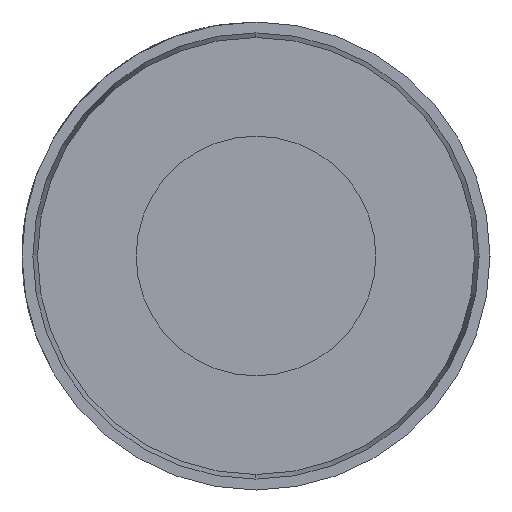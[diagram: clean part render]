
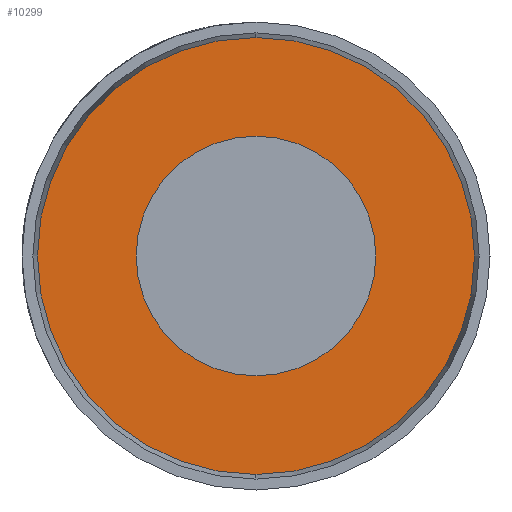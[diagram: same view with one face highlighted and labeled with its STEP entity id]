
A CAD part, left-side view. The second image highlights one B-rep face of the part: STEP entity #10299.
In plain terms, the highlighted planar face has unit normal (-1, 0, 0).
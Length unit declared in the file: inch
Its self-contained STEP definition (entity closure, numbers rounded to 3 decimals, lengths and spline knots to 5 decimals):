
#429 = CIRCLE ( 'NONE', #14964, 0.0875 ) ;
#1785 = EDGE_CURVE ( 'NONE', #5486, #12223, #429, .T. ) ;
#2857 = ORIENTED_EDGE ( 'NONE', *, *, #1785, .T. ) ;
#3196 = CARTESIAN_POINT ( 'NONE',  ( 0., 0., 0.048 ) ) ;
#3852 = DIRECTION ( 'NONE',  ( 0., 0., 1. ) ) ;
#4735 = DIRECTION ( 'NONE',  ( 0., 0., 1. ) ) ;
#5139 = AXIS2_PLACEMENT_3D ( 'NONE', #12768, #19242, #4735 ) ;
#5326 = DIRECTION ( 'NONE',  ( -1., 0., 0. ) ) ;
#5486 = VERTEX_POINT ( 'NONE', #9788 ) ;
#5567 = ORIENTED_EDGE ( 'NONE', *, *, #12492, .T. ) ;
#7011 = FACE_OUTER_BOUND ( 'NONE', #12036, .T. ) ;
#7997 = EDGE_CURVE ( 'NONE', #12817, #10710, #15243, .T. ) ;
#8692 = CARTESIAN_POINT ( 'NONE',  ( 0., 0., 0. ) ) ;
#9246 = CARTESIAN_POINT ( 'NONE',  ( 0., 0., -0.0875 ) ) ;
#9441 = ORIENTED_EDGE ( 'NONE', *, *, #20041, .F. ) ;
#9788 = CARTESIAN_POINT ( 'NONE',  ( 0., 0., 0.0875 ) ) ;
#10190 = PLANE ( 'NONE',  #14874 ) ;
#10299 = ADVANCED_FACE ( 'NONE', ( #13073, #7011 ), #10190, .F. ) ;
#10710 = VERTEX_POINT ( 'NONE', #3196 ) ;
#11250 = CIRCLE ( 'NONE', #16968, 0.0875 ) ;
#11694 = DIRECTION ( 'NONE',  ( 0., 0., -1. ) ) ;
#12036 = EDGE_LOOP ( 'NONE', ( #2857, #5567 ) ) ;
#12223 = VERTEX_POINT ( 'NONE', #9246 ) ;
#12492 = EDGE_CURVE ( 'NONE', #12223, #5486, #11250, .T. ) ;
#12609 = DIRECTION ( 'NONE',  ( -1., 0., 0. ) ) ;
#12768 = CARTESIAN_POINT ( 'NONE',  ( 0., 0., 0. ) ) ;
#12817 = VERTEX_POINT ( 'NONE', #19525 ) ;
#13073 = FACE_BOUND ( 'NONE', #19705, .T. ) ;
#13450 = CARTESIAN_POINT ( 'NONE',  ( 0., 0., 0. ) ) ;
#13464 = DIRECTION ( 'NONE',  ( 1., 0., 0. ) ) ;
#14853 = CARTESIAN_POINT ( 'NONE',  ( 0., 0., 0. ) ) ;
#14874 = AXIS2_PLACEMENT_3D ( 'NONE', #14853, #13464, #11694 ) ;
#14962 = CIRCLE ( 'NONE', #20049, 0.048 ) ;
#14964 = AXIS2_PLACEMENT_3D ( 'NONE', #20656, #12609, #19090 ) ;
#15117 = ORIENTED_EDGE ( 'NONE', *, *, #7997, .F. ) ;
#15141 = DIRECTION ( 'NONE',  ( 0., 0., 1. ) ) ;
#15243 = CIRCLE ( 'NONE', #5139, 0.048 ) ;
#16830 = DIRECTION ( 'NONE',  ( -1., 0., 0. ) ) ;
#16968 = AXIS2_PLACEMENT_3D ( 'NONE', #13450, #5326, #3852 ) ;
#19090 = DIRECTION ( 'NONE',  ( 0., 0., 1. ) ) ;
#19242 = DIRECTION ( 'NONE',  ( -1., 0., 0. ) ) ;
#19525 = CARTESIAN_POINT ( 'NONE',  ( 0., 0., -0.048 ) ) ;
#19705 = EDGE_LOOP ( 'NONE', ( #9441, #15117 ) ) ;
#20041 = EDGE_CURVE ( 'NONE', #10710, #12817, #14962, .T. ) ;
#20049 = AXIS2_PLACEMENT_3D ( 'NONE', #8692, #16830, #15141 ) ;
#20656 = CARTESIAN_POINT ( 'NONE',  ( 0., 0., 0. ) ) ;
